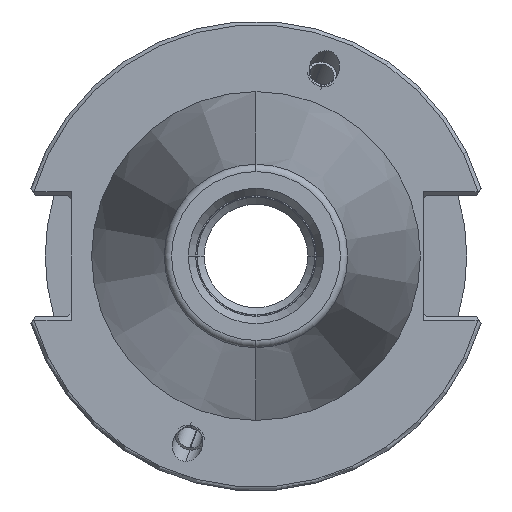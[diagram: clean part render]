
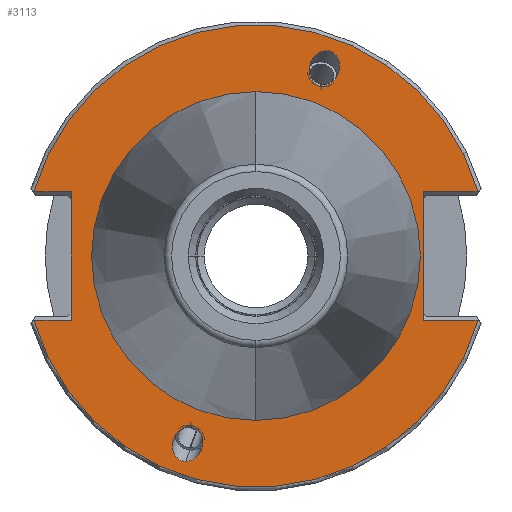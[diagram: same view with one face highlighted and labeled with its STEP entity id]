
A CAD part, left-side view. The second image highlights one B-rep face of the part: STEP entity #3113.
In plain terms, the highlighted planar face has unit normal (-1, 0, 0).
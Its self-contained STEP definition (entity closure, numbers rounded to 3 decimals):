
#116=CARTESIAN_POINT('',(3.175,0.,0.));
#117=DIRECTION('',(1.,0.,0.));
#118=DIRECTION('',(0.,1.,0.));
#119=AXIS2_PLACEMENT_3D('',#116,#117,#118);
#121=CARTESIAN_POINT('',(3.175,0.,0.));
#122=DIRECTION('',(1.,0.,0.));
#123=DIRECTION('',(0.,-1.,0.));
#124=AXIS2_PLACEMENT_3D('',#121,#122,#123);
#126=CARTESIAN_POINT('',(3.175,9.498,-27.766));
#127=CARTESIAN_POINT('',(3.175,9.257,-27.766));
#128=CARTESIAN_POINT('',(3.175,8.727,-27.663));
#129=CARTESIAN_POINT('',(3.175,7.941,-27.117));
#130=CARTESIAN_POINT('',(3.175,7.379,-26.257));
#131=CARTESIAN_POINT('',(3.175,7.151,-25.372));
#132=CARTESIAN_POINT('',(3.175,7.185,-24.486));
#133=CARTESIAN_POINT('',(3.175,7.557,-23.627));
#134=CARTESIAN_POINT('',(3.175,8.223,-23.08));
#135=CARTESIAN_POINT('',(3.175,8.731,-22.978));
#136=CARTESIAN_POINT('',(3.175,8.971,-22.978));
#138=CARTESIAN_POINT('',(3.175,8.971,-22.978));
#139=CARTESIAN_POINT('',(3.175,9.212,-22.978));
#140=CARTESIAN_POINT('',(3.175,9.742,-23.08));
#141=CARTESIAN_POINT('',(3.175,10.528,-23.627));
#142=CARTESIAN_POINT('',(3.175,11.09,-24.486));
#143=CARTESIAN_POINT('',(3.175,11.318,-25.372));
#144=CARTESIAN_POINT('',(3.175,11.284,-26.257));
#145=CARTESIAN_POINT('',(3.175,10.912,-27.117));
#146=CARTESIAN_POINT('',(3.175,10.246,-27.663));
#147=CARTESIAN_POINT('',(3.175,9.738,-27.766));
#148=CARTESIAN_POINT('',(3.175,9.498,-27.766));
#150=CARTESIAN_POINT('',(3.175,-9.498,27.766));
#151=CARTESIAN_POINT('',(3.175,-9.257,27.766));
#152=CARTESIAN_POINT('',(3.175,-8.727,27.663));
#153=CARTESIAN_POINT('',(3.175,-7.941,27.117));
#154=CARTESIAN_POINT('',(3.175,-7.379,26.257));
#155=CARTESIAN_POINT('',(3.175,-7.151,25.372));
#156=CARTESIAN_POINT('',(3.175,-7.185,24.486));
#157=CARTESIAN_POINT('',(3.175,-7.557,23.627));
#158=CARTESIAN_POINT('',(3.175,-8.223,23.08));
#159=CARTESIAN_POINT('',(3.175,-8.731,22.978));
#160=CARTESIAN_POINT('',(3.175,-8.971,22.978));
#162=CARTESIAN_POINT('',(3.175,-8.971,22.978));
#163=CARTESIAN_POINT('',(3.175,-9.212,22.978));
#164=CARTESIAN_POINT('',(3.175,-9.742,23.08));
#165=CARTESIAN_POINT('',(3.175,-10.528,23.627));
#166=CARTESIAN_POINT('',(3.175,-11.09,24.486));
#167=CARTESIAN_POINT('',(3.175,-11.318,25.372));
#168=CARTESIAN_POINT('',(3.175,-11.284,26.257));
#169=CARTESIAN_POINT('',(3.175,-10.912,27.117));
#170=CARTESIAN_POINT('',(3.175,-10.246,27.663));
#171=CARTESIAN_POINT('',(3.175,-9.738,27.766));
#172=CARTESIAN_POINT('',(3.175,-9.498,27.766));
#174=DIRECTION('',(0.,-1.,0.));
#175=VECTOR('',#174,5.017);
#176=CARTESIAN_POINT('',(3.175,30.017,8.69));
#177=LINE('',#176,#175);
#178=DIRECTION('',(0.,-1.,0.));
#179=VECTOR('',#178,7.417);
#180=CARTESIAN_POINT('',(3.175,-22.6,8.69));
#181=LINE('',#180,#179);
#182=DIRECTION('',(0.,1.,0.));
#183=VECTOR('',#182,7.417);
#184=CARTESIAN_POINT('',(3.175,-30.017,-8.69));
#185=LINE('',#184,#183);
#186=DIRECTION('',(0.,1.,0.));
#187=VECTOR('',#186,5.017);
#188=CARTESIAN_POINT('',(3.175,25.,-8.69));
#189=LINE('',#188,#187);
#615=DIRECTION('',(0.,0.,-1.));
#616=VECTOR('',#615,17.38);
#617=CARTESIAN_POINT('',(3.175,25.,8.69));
#618=LINE('',#617,#616);
#1912=CARTESIAN_POINT('',(3.175,0.,0.));
#1913=DIRECTION('',(-1.,0.,0.));
#1914=DIRECTION('',(0.,0.961,-0.278));
#1915=AXIS2_PLACEMENT_3D('',#1912,#1913,#1914);
#1984=CARTESIAN_POINT('',(3.175,0.,0.));
#1985=DIRECTION('',(-1.,0.,0.));
#1986=DIRECTION('',(0.,-0.961,0.278));
#1987=AXIS2_PLACEMENT_3D('',#1984,#1985,#1986);
#2066=DIRECTION('',(0.,0.,1.));
#2067=VECTOR('',#2066,17.38);
#2068=CARTESIAN_POINT('',(3.175,-22.6,-8.69));
#2069=LINE('',#2068,#2067);
#2524=CARTESIAN_POINT('',(3.175,22.2,0.));
#2525=CARTESIAN_POINT('',(3.175,-22.2,0.));
#2526=VERTEX_POINT('',#2524);
#2527=VERTEX_POINT('',#2525);
#2590=VERTEX_POINT('',#126);
#2591=VERTEX_POINT('',#136);
#2626=CARTESIAN_POINT('',(3.175,30.017,8.69));
#2627=CARTESIAN_POINT('',(3.175,25.,8.69));
#2628=VERTEX_POINT('',#2626);
#2629=VERTEX_POINT('',#2627);
#2634=CARTESIAN_POINT('',(3.175,25.,-8.69));
#2635=CARTESIAN_POINT('',(3.175,30.017,-8.69));
#2636=VERTEX_POINT('',#2634);
#2637=VERTEX_POINT('',#2635);
#2642=CARTESIAN_POINT('',(3.175,-22.6,8.69));
#2643=CARTESIAN_POINT('',(3.175,-30.017,8.69));
#2644=VERTEX_POINT('',#2642);
#2645=VERTEX_POINT('',#2643);
#2650=CARTESIAN_POINT('',(3.175,-30.017,
-8.69));
#2651=CARTESIAN_POINT('',(3.175,-22.6,-8.69));
#2652=VERTEX_POINT('',#2650);
#2653=VERTEX_POINT('',#2651);
#2688=CARTESIAN_POINT('',(3.175,-9.498,27.766));
#2689=VERTEX_POINT('',#2688);
#2690=CARTESIAN_POINT('',(3.175,-8.971,22.978));
#2691=VERTEX_POINT('',#2690);
#3074=CARTESIAN_POINT('',(3.175,0.,0.));
#3075=DIRECTION('',(1.,0.,0.));
#3076=DIRECTION('',(0.,0.,1.));
#3077=AXIS2_PLACEMENT_3D('',#3074,#3075,#3076);
#3078=PLANE('',#3077);
#3080=ORIENTED_EDGE('',*,*,#3079,.F.);
#3082=ORIENTED_EDGE('',*,*,#3081,.F.);
#3084=ORIENTED_EDGE('',*,*,#3083,.F.);
#3086=ORIENTED_EDGE('',*,*,#3085,.F.);
#3088=ORIENTED_EDGE('',*,*,#3087,.F.);
#3090=ORIENTED_EDGE('',*,*,#3089,.F.);
#3092=ORIENTED_EDGE('',*,*,#3091,.F.);
#3094=ORIENTED_EDGE('',*,*,#3093,.F.);
#3095=EDGE_LOOP('',(#3080,#3082,#3084,#3086,#3088,#3090,#3092,#3094));
#3096=FACE_OUTER_BOUND('',#3095,.F.);
#3098=ORIENTED_EDGE('',*,*,#3097,.T.);
#3100=ORIENTED_EDGE('',*,*,#3099,.T.);
#3101=EDGE_LOOP('',(#3098,#3100));
#3102=FACE_BOUND('',#3101,.F.);
#3104=ORIENTED_EDGE('',*,*,#3103,.T.);
#3106=ORIENTED_EDGE('',*,*,#3105,.T.);
#3107=EDGE_LOOP('',(#3104,#3106));
#3108=FACE_BOUND('',#3107,.F.);
#3109=ORIENTED_EDGE('',*,*,#3027,.F.);
#3110=ORIENTED_EDGE('',*,*,#3042,.F.);
#3111=EDGE_LOOP('',(#3109,#3110));
#3112=FACE_BOUND('',#3111,.F.);
#3113=ADVANCED_FACE('',(#3096,#3102,#3108,#3112),#3078,.F.);
#120=CIRCLE('',#119,22.2);
#125=CIRCLE('',#124,22.2);
#137=B_SPLINE_CURVE_WITH_KNOTS('',3,(#126,#127,#128,#129,#130,#131,#132,#133,
#134,#135,#136),.UNSPECIFIED.,.F.,.F.,(4,1,1,1,1,1,1,1,4),(0.,0.125,0.25,
0.375,0.5,0.625,0.75,0.875,1.),.UNSPECIFIED.);
#149=B_SPLINE_CURVE_WITH_KNOTS('',3,(#138,#139,#140,#141,#142,#143,#144,#145,
#146,#147,#148),.UNSPECIFIED.,.F.,.F.,(4,1,1,1,1,1,1,1,4),(0.,0.125,0.25,
0.375,0.5,0.625,0.75,0.875,1.),.UNSPECIFIED.);
#161=B_SPLINE_CURVE_WITH_KNOTS('',3,(#150,#151,#152,#153,#154,#155,#156,#157,
#158,#159,#160),.UNSPECIFIED.,.F.,.F.,(4,1,1,1,1,1,1,1,4),(0.,0.125,0.25,
0.375,0.5,0.625,0.75,0.875,1.),.UNSPECIFIED.);
#173=B_SPLINE_CURVE_WITH_KNOTS('',3,(#162,#163,#164,#165,#166,#167,#168,#169,
#170,#171,#172),.UNSPECIFIED.,.F.,.F.,(4,1,1,1,1,1,1,1,4),(0.,0.125,0.25,
0.375,0.5,0.625,0.75,0.875,1.),.UNSPECIFIED.);
#1916=CIRCLE('',#1915,31.25);
#1988=CIRCLE('',#1987,31.25);
#3027=EDGE_CURVE('',#2526,#2527,#120,.T.);
#3042=EDGE_CURVE('',#2527,#2526,#125,.T.);
#3079=EDGE_CURVE('',#2628,#2629,#177,.T.);
#3081=EDGE_CURVE('',#2645,#2628,#1988,.T.);
#3083=EDGE_CURVE('',#2644,#2645,#181,.T.);
#3085=EDGE_CURVE('',#2653,#2644,#2069,.T.);
#3087=EDGE_CURVE('',#2652,#2653,#185,.T.);
#3089=EDGE_CURVE('',#2637,#2652,#1916,.T.);
#3091=EDGE_CURVE('',#2636,#2637,#189,.T.);
#3093=EDGE_CURVE('',#2629,#2636,#618,.T.);
#3097=EDGE_CURVE('',#2590,#2591,#137,.T.);
#3099=EDGE_CURVE('',#2591,#2590,#149,.T.);
#3103=EDGE_CURVE('',#2689,#2691,#161,.T.);
#3105=EDGE_CURVE('',#2691,#2689,#173,.T.);
